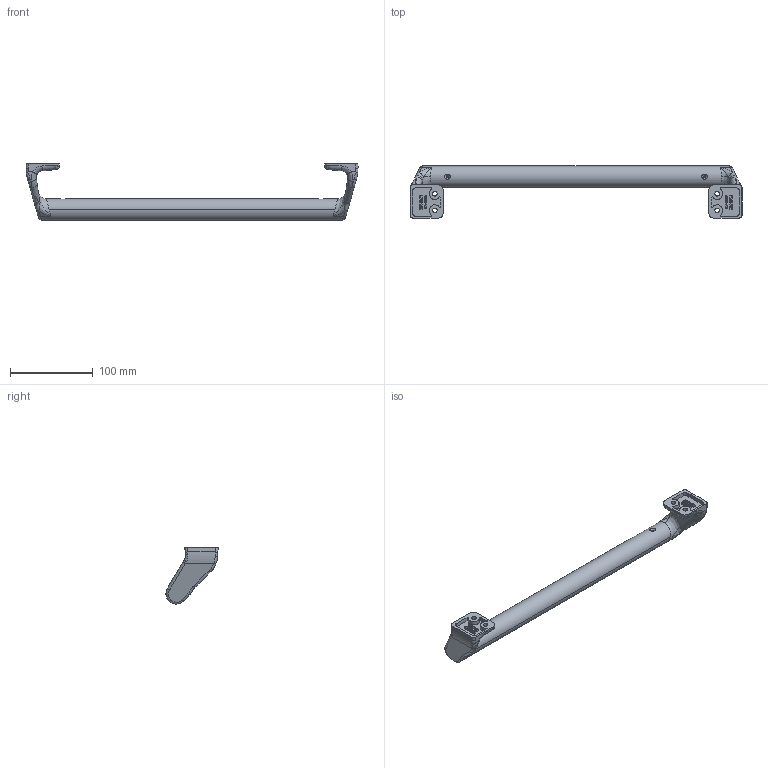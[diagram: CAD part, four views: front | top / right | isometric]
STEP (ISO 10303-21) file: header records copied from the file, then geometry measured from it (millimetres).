
FILE_DESCRIPTION (( 'STEP AP214' ), '1' );
FILE_NAME ('A73 KA-1223-2.STEP', '2016-11-24T02:33:45', ( '' ), ( '' ), 'SwSTEP 2.0', 'SolidWorks 2011', '' );
FILE_SCHEMA (( 'AUTOMOTIVE_DESIGN' ));
Length unit declared in the file: millimetre
Products named in the file (1): A73 KA-1223-2
Bounding box: 400 x 62.8 x 67.8 mm (x, y, z)
Volume: 114814.3 mm3; surface area: 75669.8 mm2
Topology: 1 solids, 1 shells, 520 faces, 1374 edges, 876 vertices
Faces by surface type: plane 254, bspline 146, cylinder 92, cone 28
Entity records: 23948 total; most frequent: CARTESIAN_POINT 12023, ORIENTED_EDGE 2724, DIRECTION 1936, EDGE_CURVE 1362, VERTEX_POINT 876, VECTOR 850, LINE 850, EDGE_LOOP 566
